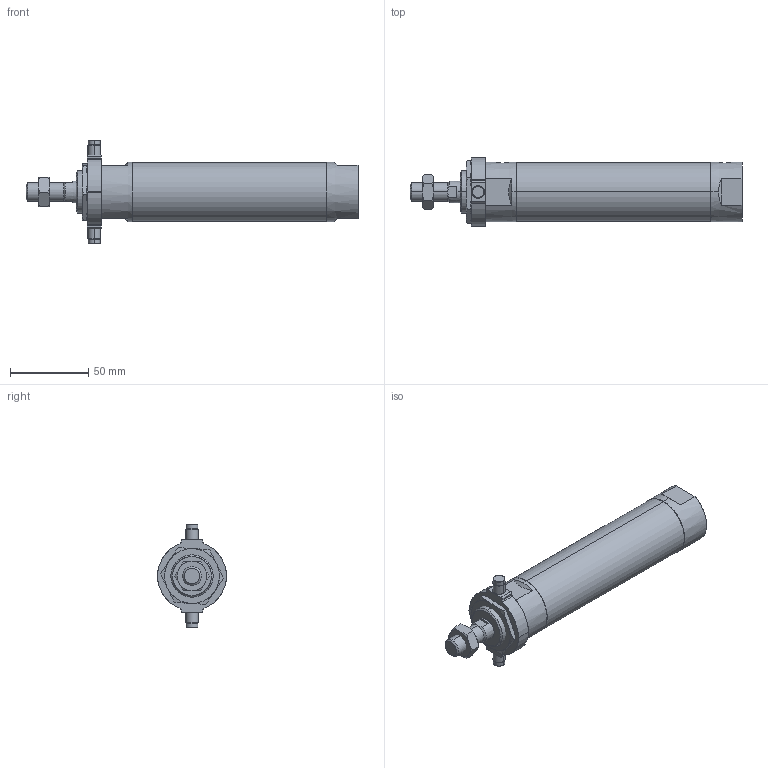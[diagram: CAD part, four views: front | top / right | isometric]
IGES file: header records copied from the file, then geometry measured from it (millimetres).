
Start section: SolidWorks IGES file using analytic representation for surfaces
Global section: file name: C:\Users\Toshiba\Desktop\JGND2-32-75-T.IGS; native system: SolidWorks 2014; preprocessor: SolidWorks 2014; author: Toshiba; date: 160804.105128; units: millimetre
Bounding box: 212 x 44 x 66 mm (x, y, z)
Surface area: 32743.9 mm2 (no closed solid volume)
Topology: 0 solids, 0 shells, 128 faces, 2076 edges, 2072 vertices
Faces by surface type: bspline 66, revolution 62
